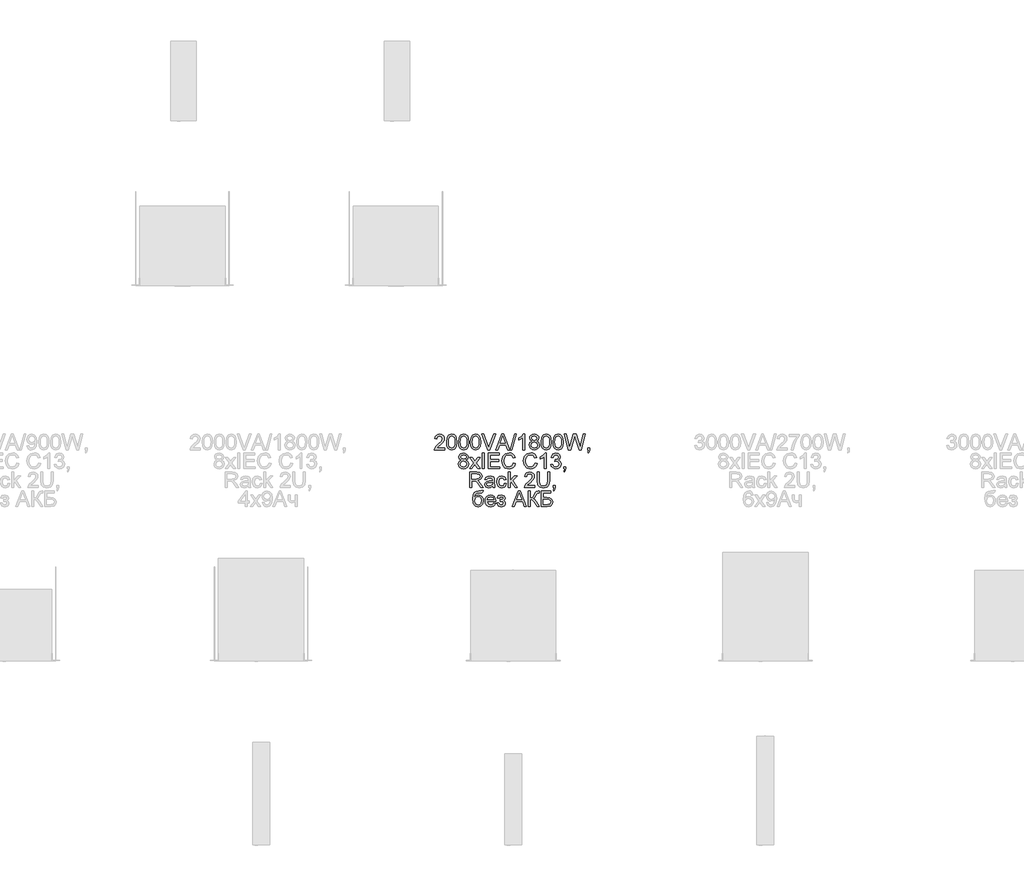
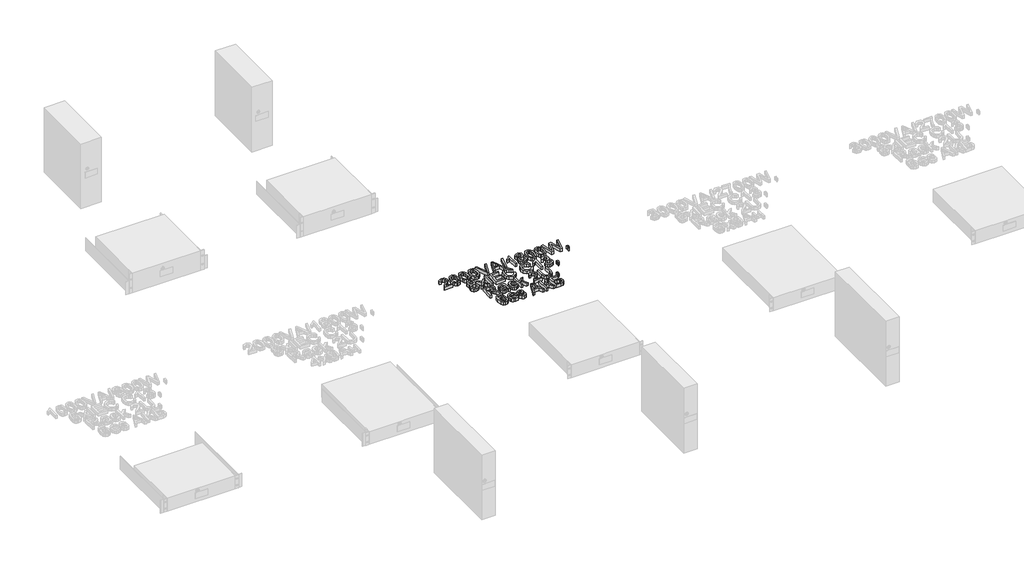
# One storey, part 68 of 74: 1 proxy.
"""IFC4 building model written with IfcOpenShell, lengths in millimetres."""

from ifc_helpers import new_model, si_unit, origin, origin_with_axes, place, context, project, spatial, polyline, outline, extrude, element, save

model = new_model("IFC4")

# Units and contexts
model_context = context("Model", 3, world=origin())
ifc_project = project(units=[si_unit("LENGTHUNIT", "METRE", prefix="MILLI")], contexts=[model_context])

# Site, building, storey
site = spatial("IfcSite", under=ifc_project)
building = spatial("IfcBuilding", under=site)
storey = spatial("IfcBuildingStorey", under=building, Name="Этаж 01", Elevation=0.0)

# Proxy
placement = place(None, origin())
element("IfcBuildingElementProxy", 1, Name="80 мм Arial", ObjectType="80 мм Arial", at=placement, inside=storey, context=model_context, shape_type="SweptSolid", body=[
    extrude(outline(polyline([(4899.1131351, 2272.4107725), (4899.1131351, 2262.3651415), (4846.3735723, 2262.3651415), (4847.4526928, 2269.2911332), (4853.5546288, 2279.954806), (4866.1312879, 2291.5994974), (4883.4756977, 2308.3356756), (4887.8118002, 2319.715492), (4883.7209524, 2328.9272572), (4873.0376593, 2332.6845586), (4861.9030975, 2329.0155489), (4857.6749071, 2318.871816), (4847.6292761, 2320.1275199), (4850.0646549, 2329.8445096), (4855.3302726, 2336.9421796), (4863.1514438, 2341.2831871), (4873.2534834, 2342.7301896), (4883.4290994, 2341.1213191), (4891.2355553, 2336.2947073), (4896.2019622, 2329.0842202), (4897.8574312, 2320.3237236), (4896.0719773, 2310.7980325), (4890.1368144, 2300.9486052), (4875.7452708, 2287.1849135), (4864.188871, 2277.5218797), (4859.6565648, 2272.4107725), (4899.1131351, 2272.4107725)])), origin_with_axes(), (0.0, 0.0, 1.0), 20.0),
    extrude(outline(polyline([(4909.1587661, 2301.9001933), (4912.1116322, 2325.0228029), (4920.881939, 2338.3548465), (4935.5285475, 2342.7301896), (4947.2615306, 2340.1403004), (4955.3647447, 2332.6747484), (4960.0736342, 2320.7848024), (4961.8983289, 2301.9001933), (4958.9748933, 2278.8756855), (4950.2340171, 2265.5142114), (4935.5285475, 2261.1094377), (4925.090509, 2263.022424), (4917.1638783, 2268.7613832), (4911.1600442, 2282.3533966), (4909.1587661, 2301.9001933)]), holes=[polyline([(4919.2043971, 2301.9198136), (4920.3816195, 2286.1180557), (4923.9132867, 2276.9725093), (4935.5285475, 2271.1550687), (4947.1438084, 2276.9921297), (4950.6754755, 2286.1425811), (4951.8526979, 2301.9198136), (4950.7147163, 2317.3659524), (4947.3007714, 2326.5826226), (4942.0523216, 2331.1590746), (4935.4108253, 2332.6845586), (4924.0702496, 2327.3085764), (4920.4208602, 2317.5180102), (4919.2043971, 2301.9198136)])]), origin_with_axes(), (0.0, 0.0, 1.0), 20.0),
    extrude(outline(polyline([(4970.6882561, 2301.9001933), (4973.6411222, 2325.0228029), (4982.411429, 2338.3548465), (4997.0580375, 2342.7301896), (5008.7910206, 2340.1403004), (5016.8942347, 2332.6747484), (5021.6031242, 2320.7848024), (5023.4278189, 2301.9001933), (5020.5043833, 2278.8756855), (5011.7635071, 2265.5142114), (4997.0580375, 2261.1094377), (4986.619999, 2263.022424), (4978.6933683, 2268.7613832), (4972.6895341, 2282.3533966), (4970.6882561, 2301.9001933)]), holes=[polyline([(4980.7338871, 2301.9198136), (4981.9111095, 2286.1180557), (4985.4427766, 2276.9725093), (4997.0580375, 2271.1550687), (5008.6732983, 2276.9921297), (5012.2049655, 2286.1425811), (5013.3821879, 2301.9198136), (5012.2442062, 2317.3659524), (5008.8302613, 2326.5826226), (5003.5818115, 2331.1590746), (4996.9403152, 2332.6845586), (4985.5997396, 2327.3085764), (4981.9503502, 2317.5180102), (4980.7338871, 2301.9198136)])]), origin_with_axes(), (0.0, 0.0, 1.0), 20.0),
    extrude(outline(polyline([(5032.217746, 2301.9001933), (5035.1706122, 2325.0228029), (5043.9409189, 2338.3548465), (5058.5875274, 2342.7301896), (5070.3205105, 2340.1403004), (5078.4237246, 2332.6747484), (5083.1326142, 2320.7848024), (5084.9573089, 2301.9001933), (5082.0338733, 2278.8756855), (5073.2929971, 2265.5142114), (5058.5875274, 2261.1094377), (5048.149489, 2263.022424), (5040.2228582, 2268.7613832), (5034.2190241, 2282.3533966), (5032.217746, 2301.9001933)]), holes=[polyline([(5042.263377, 2301.9198136), (5043.4405994, 2286.1180557), (5046.9722666, 2276.9725093), (5058.5875274, 2271.1550687), (5070.2027883, 2276.9921297), (5073.7344555, 2286.1425811), (5074.9116778, 2301.9198136), (5073.7736962, 2317.3659524), (5070.3597513, 2326.5826226), (5065.1113015, 2331.1590746), (5058.4698052, 2332.6845586), (5047.1292296, 2327.3085764), (5043.4798402, 2317.5180102), (5042.263377, 2301.9198136)])]), origin_with_axes(), (0.0, 0.0, 1.0), 20.0),
    extrude(outline(polyline([(5162.2419584, 2262.3651415), (5194.3212684, 2342.7301896), (5202.875751, 2342.7301896), (5234.955061, 2262.3651415), (5224.3404392, 2262.3651415), (5215.1384842, 2287.4792191), (5182.0389148, 2287.4792191), (5172.8565802, 2262.3651415), (5162.2419584, 2262.3651415)]), holes=[polyline([(5185.727545, 2297.5248501), (5211.4694745, 2297.5248501), (5204.2295568, 2317.2825658), (5198.5985097, 2332.6845586), (5193.5953146, 2319.0091586), (5185.727545, 2297.5248501)])]), origin_with_axes(), (0.0, 0.0, 1.0), 20.0),
    extrude(outline(polyline([(5121.2549991, 2262.3651415), (5089.2737909, 2342.7301896), (5100.0257554, 2342.7301896), (5121.4315824, 2284.8304687), (5125.7676849, 2271.7829206), (5130.0449262, 2284.8304687), (5151.5096143, 2342.7301896), (5162.2615788, 2342.7301896), (5131.6341764, 2262.3651415), (5121.2549991, 2262.3651415)])), origin_with_axes(), (0.0, 0.0, 1.0), 20.0),
    extrude(outline(polyline([(5236.897478, 2262.3651415), (5259.5001477, 2342.7301896), (5268.5647601, 2342.7301896), (5245.9620903, 2262.3651415), (5236.897478, 2262.3651415)])), origin_with_axes(), (0.0, 0.0, 1.0), 20.0),
    extrude(outline(polyline([(5310.9840067, 2262.3651415), (5300.9383757, 2262.3651415), (5300.9383757, 2324.9933724), (5291.4224947, 2318.2145335), (5280.8471137, 2313.142667), (5280.8471137, 2322.6389276), (5295.5722036, 2332.0370863), (5304.5092836, 2342.7301896), (5310.9840067, 2342.7301896), (5310.9840067, 2262.3651415)])), origin_with_axes(), (0.0, 0.0, 1.0), 20.0),
    extrude(outline(polyline([(5349.4791787, 2306.6287032), (5340.3262746, 2312.8679818), (5337.3537881, 2322.5800665), (5338.9724689, 2330.4331208), (5343.8285112, 2336.9225592), (5351.3774498, 2341.278282), (5361.0748192, 2342.7301896), (5370.8310497, 2341.2439464), (5378.4780901, 2336.7852166), (5383.4224241, 2330.1927713), (5385.0705354, 2322.3053813), (5382.1372897, 2312.8385513), (5373.2394505, 2306.6287032), (5383.9227436, 2298.7511234), (5387.5819432, 2285.7526262), (5385.7670587, 2276.1484536), (5380.3224051, 2268.2120127), (5371.9150753, 2262.8850814), (5361.2121618, 2261.1094377), (5350.5092483, 2262.8924391), (5342.1019184, 2268.2414433), (5336.6572649, 2276.2539131), (5334.8423804, 2286.0273115), (5338.6487327, 2299.3299244), (5349.4791787, 2306.6287032)]), holes=[polyline([(5347.3994191, 2322.2857609), (5350.9605168, 2314.3983709), (5361.329884, 2311.3375927), (5371.4932373, 2314.3787506), (5375.0249044, 2321.8344923), (5371.375515, 2329.5551091), (5361.2121618, 2332.6845586), (5351.019378, 2329.6237804), (5347.3994191, 2322.2857609)]), polyline([(5344.8880114, 2286.3804782), (5346.5655533, 2278.8168244), (5352.5007161, 2273.1563467), (5361.2906433, 2271.1550687), (5373.2590708, 2275.3636387), (5377.5363122, 2286.0665522), (5373.1217282, 2296.9754796), (5360.9570969, 2301.2919617), (5349.1358221, 2297.0343408), (5344.8880114, 2286.3804782)])]), origin_with_axes(), (0.0, 0.0, 1.0), 20.0),
    extrude(outline(polyline([(5396.3718703, 2301.9001933), (5399.3247365, 2325.0228029), (5408.0950432, 2338.3548465), (5422.7416517, 2342.7301896), (5434.4746348, 2340.1403004), (5442.5778489, 2332.6747484), (5447.2867385, 2320.7848024), (5449.1114332, 2301.9001933), (5446.1879976, 2278.8756855), (5437.4471214, 2265.5142114), (5422.7416517, 2261.1094377), (5412.3036133, 2263.022424), (5404.3769825, 2268.7613832), (5398.3731484, 2282.3533966), (5396.3718703, 2301.9001933)]), holes=[polyline([(5406.4175013, 2301.9198136), (5407.5947237, 2286.1180557), (5411.1263909, 2276.9725093), (5422.7416517, 2271.1550687), (5434.3569126, 2276.9921297), (5437.8885798, 2286.1425811), (5439.0658021, 2301.9198136), (5437.9278205, 2317.3659524), (5434.5138756, 2326.5826226), (5429.2654258, 2331.1590746), (5422.6239295, 2332.6845586), (5411.2833539, 2327.3085764), (5407.6339645, 2317.5180102), (5406.4175013, 2301.9198136)])]), origin_with_axes(), (0.0, 0.0, 1.0), 20.0),
    extrude(outline(polyline([(5457.9013603, 2301.9001933), (5460.8542264, 2325.0228029), (5469.6245332, 2338.3548465), (5484.2711417, 2342.7301896), (5496.0041248, 2340.1403004), (5504.1073389, 2332.6747484), (5508.8162284, 2320.7848024), (5510.6409231, 2301.9001933), (5507.7174875, 2278.8756855), (5498.9766113, 2265.5142114), (5484.2711417, 2261.1094377), (5473.8331032, 2263.022424), (5465.9064725, 2268.7613832), (5459.9026383, 2282.3533966), (5457.9013603, 2301.9001933)]), holes=[polyline([(5467.9469913, 2301.9198136), (5469.1242137, 2286.1180557), (5472.6558808, 2276.9725093), (5484.2711417, 2271.1550687), (5495.8864026, 2276.9921297), (5499.4180697, 2286.1425811), (5500.5952921, 2301.9198136), (5499.4573105, 2317.3659524), (5496.0433656, 2326.5826226), (5490.7949158, 2331.1590746), (5484.1534195, 2332.6845586), (5472.8128438, 2327.3085764), (5469.1634544, 2317.5180102), (5467.9469913, 2301.9198136)])]), origin_with_axes(), (0.0, 0.0, 1.0), 20.0),
    extrude(outline(polyline([(5537.5796954, 2262.3651415), (5515.6637386, 2342.7301896), (5526.0232956, 2342.7301896), (5538.7372974, 2289.9121453), (5542.661372, 2273.6076153), (5546.8601318, 2288.0285895), (5562.7918748, 2342.7301896), (5577.7229787, 2342.7301896), (5589.2989988, 2303.0774157), (5597.9123426, 2273.6076153), (5601.7186949, 2289.4412564), (5614.5504189, 2342.7301896), (5624.9099759, 2342.7301896), (5602.9743988, 2262.3651415), (5592.2420547, 2262.3651415), (5572.9748484, 2324.3655204), (5570.2868573, 2333.018105), (5567.2653198, 2322.5996869), (5549.7050859, 2262.3651415), (5537.5796954, 2262.3651415)])), origin_with_axes(), (0.0, 0.0, 1.0), 20.0),
    extrude(outline(polyline([(5636.2113108, 2262.3651415), (5636.2113108, 2272.4107725), (5646.2569418, 2272.4107725), (5646.2569418, 2262.3651415), (5644.4518675, 2252.0938762), (5638.7227186, 2246.0409911), (5636.2113108, 2249.8081028), (5639.8999409, 2254.1442052), (5641.2145059, 2262.3651415), (5636.2113108, 2262.3651415)])), origin_with_axes(), (0.0, 0.0, 1.0), 20.0),
    extrude(outline(polyline([(4984.6972024, 2209.0488489), (4975.5442984, 2215.2881276), (4972.5718119, 2225.0002122), (4974.1904927, 2232.8532665), (4979.046535, 2239.3427049), (4986.5954735, 2243.6984278), (4996.2928429, 2245.1503354), (5006.0490734, 2243.6640921), (5013.6961138, 2239.2053623), (5018.6404479, 2232.612917), (5020.2885592, 2224.725527), (5017.3553134, 2215.258697), (5008.4574742, 2209.0488489), (5019.1407674, 2201.1712691), (5022.799967, 2188.172772), (5020.9850824, 2178.5685993), (5015.5404289, 2170.6321584), (5007.1330991, 2165.3052271), (4996.4301855, 2163.5295834), (4985.727272, 2165.3125848), (4977.3199422, 2170.661589), (4971.8752886, 2178.6740588), (4970.0604041, 2188.4474572), (4973.8667565, 2201.7500701), (4984.6972024, 2209.0488489)]), holes=[polyline([(4982.6174429, 2224.7059066), (4986.1785406, 2216.8185166), (4996.5479078, 2213.7577385), (5006.711261, 2216.7988963), (5010.2429282, 2224.254638), (5006.5935388, 2231.9752549), (4996.4301855, 2235.1047044), (4986.2374017, 2232.0439262), (4982.6174429, 2224.7059066)]), polyline([(4980.1060351, 2188.8006239), (4981.783577, 2181.2369701), (4987.7187399, 2175.5764924), (4996.508667, 2173.5752144), (5008.4770946, 2177.7837844), (5012.7543359, 2188.4866979), (5008.339752, 2199.3956254), (4996.1751207, 2203.7121074), (4984.3538459, 2199.4544865), (4980.1060351, 2188.8006239)])]), origin_with_axes(), (0.0, 0.0, 1.0), 20.0),
    extrude(outline(polyline([(5027.8227825, 2164.7852873), (5049.2874706, 2194.4512913), (5029.0784863, 2223.8033695), (5041.1646362, 2223.8033695), (5050.9159616, 2209.6767009), (5055.4678881, 2203.005774), (5059.4115831, 2208.4602377), (5070.5167143, 2223.8033695), (5082.6028641, 2223.8033695), (5061.3736204, 2194.4512913), (5081.8180492, 2164.7852873), (5069.7318994, 2164.7852873), (5057.4299254, 2182.6202064), (5055.1735825, 2185.8771883), (5039.9089323, 2164.7852873), (5027.8227825, 2164.7852873)])), origin_with_axes(), (0.0, 0.0, 1.0), 20.0),
    extrude(outline(polyline([(5093.1193841, 2164.7852873), (5093.1193841, 2245.1503354), (5103.1650151, 2245.1503354), (5103.1650151, 2164.7852873), (5093.1193841, 2164.7852873)])), origin_with_axes(), (0.0, 0.0, 1.0), 20.0),
    extrude(outline(polyline([(5123.2562771, 2164.7852873), (5123.2562771, 2245.1503354), (5181.0186554, 2245.1503354), (5181.0186554, 2235.1047044), (5133.3019081, 2235.1047044), (5133.3019081, 2211.2463307), (5178.5072477, 2211.2463307), (5178.5072477, 2201.2006997), (5133.3019081, 2201.2006997), (5133.3019081, 2174.8309183), (5182.2743593, 2174.8309183), (5182.2743593, 2164.7852873), (5123.2562771, 2164.7852873)])), origin_with_axes(), (0.0, 0.0, 1.0), 20.0),
    extrude(outline(polyline([(5253.8494803, 2193.3525505), (5263.8951113, 2190.7626612), (5259.2597982, 2179.0566561), (5251.9855449, 2170.504626), (5242.4304232, 2165.273344), (5230.9525049, 2163.5295834), (5210.0469974, 2168.8074637), (5197.7842642, 2184.0917344), (5193.5756942, 2205.5760429), (5198.3336347, 2227.4135181), (5211.8618819, 2241.5696173), (5231.168329, 2246.4060392), (5242.182716, 2244.8413145), (5251.2890216, 2240.1471402), (5258.2027506, 2232.612917), (5262.6394074, 2222.5280452), (5252.5937764, 2220.1343597), (5244.3532197, 2232.4853846), (5230.7759216, 2236.3604082), (5215.0600027, 2232.0635465), (5206.1817839, 2220.5267672), (5203.6213252, 2205.5956633), (5206.6526729, 2188.2904942), (5216.0900723, 2177.234414), (5229.9518659, 2173.5752144), (5245.3244282, 2178.5587892), (5253.8494803, 2193.3525505)])), origin_with_axes(), (0.0, 0.0, 1.0), 20.0),
    extrude(outline(polyline([(5365.6071253, 2193.3525505), (5375.6527564, 2190.7626612), (5371.0174432, 2179.0566561), (5363.7431899, 2170.504626), (5354.1880682, 2165.273344), (5342.71015, 2163.5295834), (5321.8046424, 2168.8074637), (5309.5419093, 2184.0917344), (5305.3333393, 2205.5760429), (5310.0912797, 2227.4135181), (5323.619527, 2241.5696173), (5342.9259741, 2246.4060392), (5353.940361, 2244.8413145), (5363.0466667, 2240.1471402), (5369.9603956, 2232.612917), (5374.3970525, 2222.5280452), (5364.3514215, 2220.1343597), (5356.1108648, 2232.4853846), (5342.5335666, 2236.3604082), (5326.8176478, 2232.0635465), (5317.939429, 2220.5267672), (5315.3789703, 2205.5956633), (5318.4103179, 2188.2904942), (5327.8477174, 2177.234414), (5341.7095109, 2173.5752144), (5357.0820732, 2178.5587892), (5365.6071253, 2193.3525505)])), origin_with_axes(), (0.0, 0.0, 1.0), 20.0),
    extrude(outline(polyline([(5423.3695037, 2164.7852873), (5413.3238727, 2164.7852873), (5413.3238727, 2227.4135181), (5403.8079917, 2220.6346792), (5393.2326106, 2215.5628128), (5393.2326106, 2225.0590733), (5407.9577006, 2234.457232), (5416.8947806, 2245.1503354), (5423.3695037, 2245.1503354), (5423.3695037, 2164.7852873)])), origin_with_axes(), (0.0, 0.0, 1.0), 20.0),
    extrude(outline(polyline([(5447.2278773, 2186.1322532), (5457.2735084, 2187.387957), (5462.8162637, 2176.8125759), (5473.1856309, 2173.5752144), (5485.389503, 2178.0290391), (5489.9218092, 2189.0556887), (5485.4287437, 2199.4446763), (5474.0096866, 2203.5551445), (5466.9659727, 2202.4564036), (5468.0843339, 2212.5020346), (5469.6932045, 2212.3843123), (5481.0926413, 2215.2685072), (5486.1546975, 2224.1369158), (5482.4856878, 2231.9948752), (5473.0286679, 2235.1047044), (5463.4539259, 2231.9654447), (5458.5292122, 2222.5476656), (5448.4835812, 2223.8033695), (5456.7045175, 2239.558529), (5472.6755012, 2245.1503354), (5484.7910816, 2242.393673), (5493.2670828, 2234.8594497), (5496.2003285, 2224.725527), (5493.4142356, 2215.4647109), (5485.1736789, 2208.8134044), (5496.121847, 2201.9462739), (5499.9674402, 2188.8791054), (5498.0446436, 2179.0885392), (5492.2762539, 2170.9068437), (5483.5697134, 2165.3738984), (5472.8324642, 2163.5295834), (5463.1203795, 2165.1041183), (5455.2133692, 2169.8277231), (5449.7147596, 2177.0529255), (5447.2278773, 2186.1322532)])), origin_with_axes(), (0.0, 0.0, 1.0), 20.0),
    extrude(outline(polyline([(5513.7801828, 2164.7852873), (5513.7801828, 2174.8309183), (5523.8258138, 2174.8309183), (5523.8258138, 2164.7852873), (5522.0207395, 2154.5140219), (5516.2915906, 2148.4611369), (5513.7801828, 2152.2282485), (5517.468813, 2156.5643509), (5518.7833779, 2164.7852873), (5513.7801828, 2164.7852873)])), origin_with_axes(), (0.0, 0.0, 1.0), 20.0),
    extrude(outline(polyline([(5029.0784863, 2067.205433), (5029.0784863, 2147.5704811), (5063.7084448, 2147.5704811), (5079.7873406, 2145.4024299), (5088.5772677, 2137.730864), (5091.8636802, 2125.5760429), (5086.4190267, 2111.0962075), (5069.5945567, 2103.6208454), (5075.3040853, 2099.3239837), (5083.4465401, 2088.9840471), (5096.8472549, 2067.205433), (5085.173133, 2067.205433), (5074.7154741, 2083.8631297), (5067.1616305, 2094.8897794), (5061.8543196, 2100.0989884), (5057.0767587, 2102.0119748), (5051.2495079, 2102.3651415), (5039.1241174, 2102.3651415), (5039.1241174, 2067.205433), (5029.0784863, 2067.205433)]), holes=[polyline([(5039.1241174, 2112.4107725), (5061.6090649, 2112.4107725), (5073.077173, 2113.8332496), (5079.5911368, 2118.3851761), (5081.8180492, 2125.2032558), (5077.5702384, 2134.052044), (5064.140093, 2137.5248501), (5039.1241174, 2137.5248501), (5039.1241174, 2112.4107725)])]), origin_with_axes(), (0.0, 0.0, 1.0), 20.0),
    extrude(outline(polyline([(5145.8589469, 2074.7396562), (5136.1174317, 2067.9313868), (5125.355657, 2065.9497291), (5110.7679096, 2070.7174798), (5105.6764228, 2082.9017314), (5107.5992194, 2090.8479825), (5112.6514655, 2096.6163722), (5119.6853692, 2099.9125949), (5128.3771945, 2101.4233636), (5145.8000858, 2104.8765493), (5145.8589469, 2107.1132718), (5143.0924743, 2114.5297728), (5131.9873431, 2117.4335881), (5121.8239899, 2115.5009813), (5116.9777577, 2108.6436609), (5106.9321267, 2109.8993648), (5111.2780393, 2119.7095513), (5120.0287257, 2125.4583206), (5133.2822877, 2127.4792191), (5145.4567292, 2125.6937651), (5152.33367, 2121.2105099), (5155.4140686, 2114.3924302), (5155.9045779, 2105.6025031), (5155.9045779, 2093.1043254), (5156.4147076, 2075.6520036), (5158.4159857, 2067.205433), (5148.3703546, 2067.205433), (5145.8589469, 2074.7396562)]), holes=[polyline([(5145.8589469, 2094.8309183), (5129.6525187, 2091.7505197), (5121.0097444, 2090.1220287), (5117.09548, 2087.4732784), (5115.7220538, 2083.6080649), (5118.7141607, 2078.1732215), (5127.4942777, 2075.9953601), (5137.6576309, 2078.3988558), (5144.2108356, 2084.2162964), (5145.8000858, 2091.9859642), (5145.8589469, 2094.8309183)])]), origin_with_axes(), (0.0, 0.0, 1.0), 20.0),
    extrude(outline(polyline([(5207.3884369, 2088.5523989), (5217.4340679, 2087.296695), (5214.6332596, 2078.3620676), (5209.3700945, 2071.6102067), (5193.4383516, 2065.9497291), (5182.7526059, 2067.9240291), (5174.3967795, 2073.8469293), (5169.0036295, 2083.4584595), (5167.2059128, 2096.49865), (5170.2765012, 2113.1857773), (5179.6354191, 2123.9083112), (5193.301009, 2127.4792191), (5208.5754694, 2122.5741258), (5216.178364, 2108.6436609), (5206.132733, 2107.387957), (5201.4728944, 2114.9123701), (5193.3794905, 2117.4335881), (5181.7347991, 2112.4696337), (5177.2515438, 2096.7733352), (5181.6366972, 2080.9298839), (5193.1048053, 2075.9953601), (5202.5716353, 2079.0757587), (5207.3884369, 2088.5523989)])), origin_with_axes(), (0.0, 0.0, 1.0), 20.0),
    extrude(outline(polyline([(5226.223995, 2067.205433), (5226.223995, 2147.5704811), (5236.269626, 2147.5704811), (5236.269626, 2104.38604), (5258.7938143, 2126.2235152), (5272.6850385, 2126.2235152), (5249.8861649, 2104.1113547), (5273.9407423, 2067.205433), (5262.2077592, 2067.205433), (5242.685488, 2097.1265019), (5236.269626, 2090.9068437), (5236.269626, 2067.205433), (5226.223995, 2067.205433)])), origin_with_axes(), (0.0, 0.0, 1.0), 20.0),
    extrude(outline(polyline([(5363.0957176, 2077.251064), (5363.0957176, 2067.205433), (5310.3561548, 2067.205433), (5311.4352753, 2074.1314247), (5317.5372113, 2084.7950974), (5330.1138704, 2096.4397889), (5347.4582802, 2113.1759671), (5351.7943827, 2124.5557835), (5347.7035349, 2133.7675486), (5337.0202418, 2137.5248501), (5325.88568, 2133.8558403), (5321.6574897, 2123.7121074), (5311.6118586, 2124.9678113), (5314.0472374, 2134.6848011), (5319.3128551, 2141.782471), (5327.1340263, 2146.1234786), (5337.2360659, 2147.5704811), (5347.4116819, 2145.9616105), (5355.2181378, 2141.1349987), (5360.1845447, 2133.9245116), (5361.8400137, 2125.164015), (5360.0545598, 2115.6383239), (5354.1193969, 2105.7888966), (5339.7278533, 2092.0252049), (5328.1714535, 2082.3621712), (5323.6391473, 2077.251064), (5363.0957176, 2077.251064)])), origin_with_axes(), (0.0, 0.0, 1.0), 20.0),
    extrude(outline(polyline([(5429.6480231, 2147.5704811), (5439.6936541, 2147.5704811), (5439.6936541, 2101.2075395), (5436.9664222, 2081.9893841), (5427.1366153, 2070.413364), (5408.4972609, 2065.9497291), (5390.1424019, 2069.834563), (5379.9594282, 2081.0868469), (5376.9084602, 2101.2075395), (5376.9084602, 2147.5704811), (5386.9540912, 2147.5704811), (5386.9540912, 2101.5607062), (5388.9357489, 2086.247005), (5395.7440184, 2078.6637309), (5407.555483, 2075.9953601), (5417.7727923, 2077.3148302), (5424.5663464, 2081.2732405), (5428.3776039, 2088.9840471), (5429.6480231, 2101.5607062), (5429.6480231, 2147.5704811)])), origin_with_axes(), (0.0, 0.0, 1.0), 20.0),
    extrude(outline(polyline([(5458.5292122, 2067.205433), (5458.5292122, 2077.251064), (5468.5748432, 2077.251064), (5468.5748432, 2067.205433), (5466.7697689, 2056.9341677), (5461.04062, 2050.8812826), (5458.5292122, 2054.6483942), (5462.2178424, 2058.9844967), (5463.5324074, 2067.205433), (5458.5292122, 2067.205433)])), origin_with_axes(), (0.0, 0.0, 1.0), 20.0),
    extrude(outline(polyline([(5088.7244205, 2051.2463307), (5097.5143476, 2051.2463307), (5094.9244584, 2043.4079917), (5089.803541, 2040.5728477), (5077.5015671, 2039.9449958), (5060.932162, 2037.6297918), (5054.5751612, 2030.2132908), (5052.4267303, 2017.0872612), (5061.1283658, 2026.701244), (5072.341409, 2029.8993648), (5082.7941627, 2027.8662036), (5091.275069, 2021.7667201), (5096.8963059, 2012.1993357), (5098.7700515, 1999.7624717), (5095.0519908, 1982.4769231), (5086.2326331, 1972.0486948), (5072.341409, 1968.3698748), (5056.4783373, 1973.1081949), (5047.7963223, 1985.2335855), (5044.7747848, 2010.9657048), (5046.6804135, 2030.2402688), (5052.3972997, 2041.9953248), (5062.0676911, 2047.9918013), (5075.8338354, 2049.9906268), (5087.017448, 2050.2162611), (5088.7244205, 2051.2463307)]), holes=[polyline([(5088.7244205, 2000.0763977), (5084.3686977, 2014.3109784), (5079.1202479, 2018.4680449), (5072.0863441, 2019.8537338), (5064.7532297, 2018.3895634), (5059.3134813, 2013.9970524), (5054.8204158, 1998.3498049), (5059.7843702, 1983.5462334), (5072.027483, 1978.4155058), (5078.7621761, 1979.8992966), (5084.0940124, 1984.3506687), (5088.7244205, 2000.0763977)])]), origin_with_axes(), (0.0, 0.0, 1.0), 20.0),
    extrude(outline(polyline([(5152.647596, 1987.205433), (5162.4970233, 1985.9497291), (5153.2852581, 1972.9806625), (5136.1272418, 1968.3698748), (5124.3403027, 1970.3588901), (5115.2707853, 1976.3259361), (5109.4876803, 1985.8835103), (5107.5599786, 1998.6441105), (5109.5073007, 2011.8339063), (5115.3492668, 2021.6980488), (5124.2961569, 2027.8490358), (5135.558251, 2029.8993648), (5146.469631, 2027.8539409), (5155.1884343, 2021.7176692), (5160.9053205, 2011.873147), (5162.8109492, 1998.7029716), (5162.7520881, 1995.9953601), (5117.6056097, 1995.9953601), (5123.3838095, 1982.947812), (5136.3234456, 1978.4155058), (5146.1728729, 1980.5148858), (5152.647596, 1987.205433)]), holes=[polyline([(5117.6056097, 2006.0409911), (5152.7653182, 2006.0409911), (5148.7431417, 2015.1448442), (5135.5190103, 2019.8537338), (5123.1483651, 2016.0964323), (5117.6056097, 2006.0409911)])]), origin_with_axes(), (0.0, 0.0, 1.0), 20.0),
    extrude(outline(polyline([(5186.6693229, 1995.9953601), (5186.6693229, 2006.0409911), (5194.5959536, 2006.4333986), (5198.5985097, 2008.5229683), (5200.4820655, 2012.8885013), (5197.9608476, 2017.9603678), (5191.4566939, 2019.8537338), (5184.7367161, 2017.970178), (5180.3908035, 2012.3195105), (5169.0894686, 2013.5752144), (5176.6433122, 2025.8183272), (5190.4364345, 2029.8993648), (5205.1909551, 2024.9256002), (5210.5276965, 2013.0454643), (5208.6294255, 2006.8061857), (5202.9346122, 2001.9795739), (5209.5761085, 1995.7206749), (5211.7834004, 1986.7149236), (5210.3829963, 1979.3204955), (5206.1817839, 1973.4613616), (5190.514916, 1968.3698748), (5175.0638722, 1973.0787644), (5167.8337647, 1987.205433), (5179.1350996, 1988.4611369), (5183.6674058, 1981.0446358), (5191.4763143, 1978.4155058), (5198.8143338, 1980.9367238), (5201.7377694, 1987.3820163), (5199.9228849, 1992.6598967), (5196.0576714, 1995.4852304), (5188.6313602, 1996.0542212), (5186.6693229, 1995.9953601)])), origin_with_axes(), (0.0, 0.0, 1.0), 20.0),
    extrude(outline(polyline([(5247.629822, 1969.6255787), (5279.709132, 2049.9906268), (5288.2636147, 2049.9906268), (5320.3429247, 1969.6255787), (5309.7283028, 1969.6255787), (5300.5263478, 1994.7396562), (5267.4267785, 1994.7396562), (5258.2444439, 1969.6255787), (5247.629822, 1969.6255787)]), holes=[polyline([(5271.1154086, 2004.7852873), (5296.8573381, 2004.7852873), (5289.6174204, 2024.5430029), (5283.9863733, 2039.9449958), (5278.9831782, 2026.2695958), (5271.1154086, 2004.7852873)])]), origin_with_axes(), (0.0, 0.0, 1.0), 20.0),
    extrude(outline(polyline([(5331.0752687, 2049.9906268), (5341.1208997, 2049.9906268), (5341.1208997, 2014.8309183), (5352.3535633, 2017.4894788), (5360.1919024, 2030.9392446), (5365.7346578, 2042.1719081), (5372.0131772, 2047.7342839), (5380.9894978, 2049.9906268), (5387.5819432, 2049.8729046), (5387.5819432, 2039.8272736), (5385.364841, 2039.8861347), (5383.1477389, 2039.9449958), (5375.2995896, 2037.5316899), (5369.3349962, 2027.1917533), (5362.222611, 2014.5954738), (5355.2868091, 2010.4359547), (5363.0417616, 2005.8938383), (5370.688802, 1996.4270083), (5387.5819432, 1969.6255787), (5375.9274416, 1969.6255787), (5361.64381, 1992.2674892), (5351.5883688, 2004.088764), (5341.1208997, 2007.296695), (5341.1208997, 1969.6255787), (5331.0752687, 1969.6255787), (5331.0752687, 2049.9906268)])), origin_with_axes(), (0.0, 0.0, 1.0), 20.0),
    extrude(outline(polyline([(5396.3718703, 2049.9906268), (5446.6000254, 2049.9906268), (5446.6000254, 2039.9449958), (5406.4175013, 2039.9449958), (5406.4175013, 2016.0866221), (5425.2334391, 2016.0866221), (5441.8126544, 2014.0461033), (5451.681702, 2006.3352967), (5455.3899525, 1993.150406), (5452.7510124, 1981.7019183), (5444.8734326, 1973.0002829), (5427.0385134, 1969.6255787), (5396.3718703, 1969.6255787), (5396.3718703, 2049.9906268)]), holes=[polyline([(5406.4175013, 1979.6712097), (5427.9410506, 1979.6712097), (5440.9885987, 1982.9870528), (5445.3443215, 1992.9345819), (5442.8525341, 2000.8023515), (5435.9167323, 2005.0011114), (5420.7796144, 2006.0409911), (5406.4175013, 2006.0409911), (5406.4175013, 1979.6712097)])]), origin_with_axes(), (0.0, 0.0, 1.0), 20.0),
])

save(model, "model.ifc")
